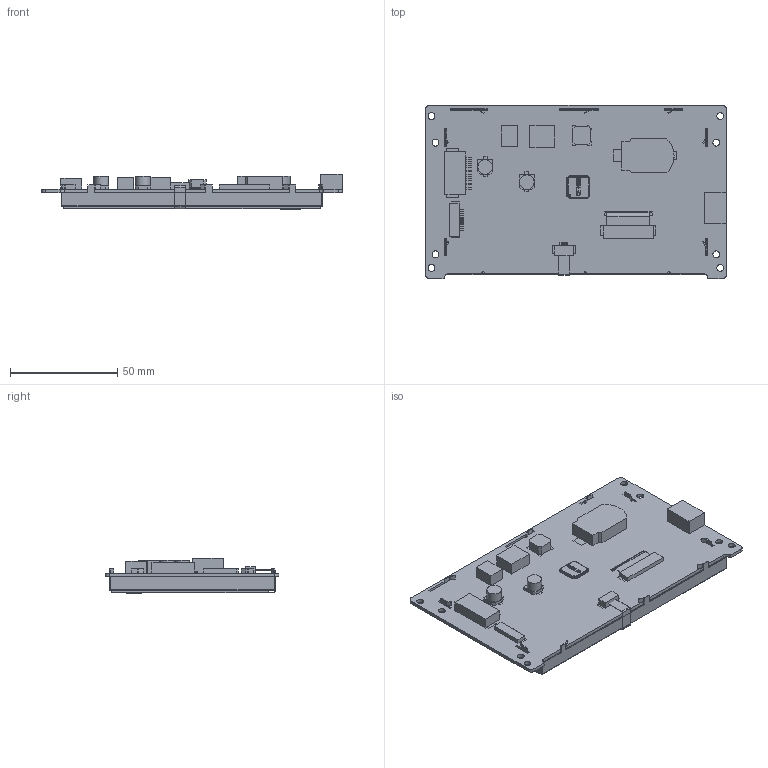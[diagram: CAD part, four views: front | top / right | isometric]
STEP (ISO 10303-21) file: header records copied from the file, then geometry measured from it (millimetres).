
FILE_DESCRIPTION(/* description */ (''),/* implementation_level */ '2;1');
FILE_NAME(/* name */ '',/* time_stamp */ '2023-07-27T11:48:51+08:00',/* author */ (''),/* organization */ (''),/* preprocessor_version */ 'ST-DEVELOPER v11',/* originating_system */ 'SIEMENS PLM Software NX 7.5',/* authorisation */ '');
FILE_SCHEMA (('AP203_CONFIGURATION_CONTROLLED_3D_DESIGN_OF_MECHANICAL_PARTS_AND_ASSEMBLIES_MIM_LF'));
Length unit declared in the file: millimetre
Products named in the file (1): 3D-SDWb050U74AT_stp
Bounding box: 140 x 80.9 x 16.6 mm (x, y, z)
Volume: 34517.9 mm3; surface area: 57838.3 mm2
Topology: 22 solids, 22 shells, 1589 faces, 4519 edges, 2987 vertices
Faces by surface type: plane 1387, cylinder 195, bspline 7
Full cylindrical faces by diameter (mm): 3.2 x8, 6.776 x2
Entity records: 53370 total; most frequent: CARTESIAN_POINT 9505, ORIENTED_EDGE 9014, DIRECTION 7981, EDGE_CURVE 4507, LINE 4079, VECTOR 4079, VERTEX_POINT 2985, AXIS2_PLACEMENT_3D 1951
